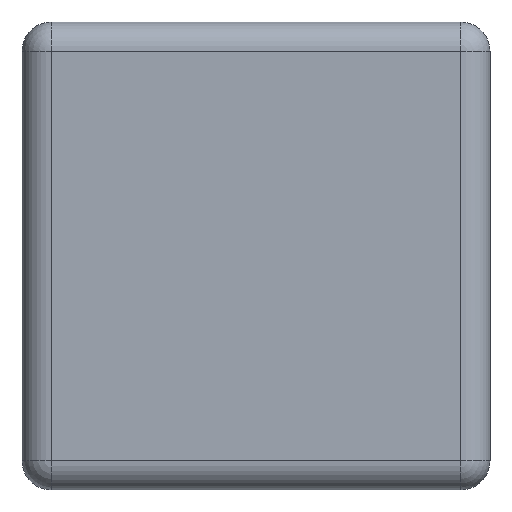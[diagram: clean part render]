
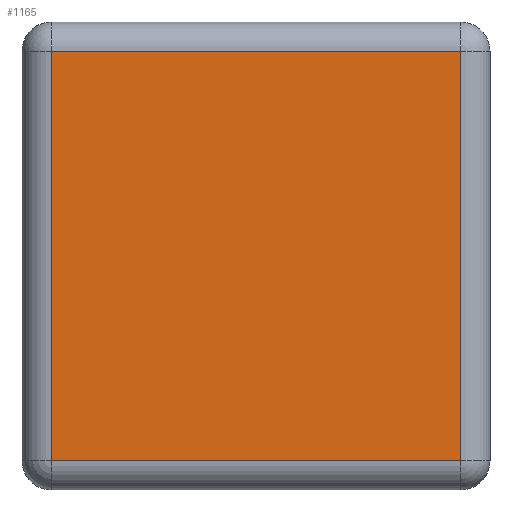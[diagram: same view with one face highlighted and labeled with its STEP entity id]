
A CAD part, left-side view. The second image highlights one B-rep face of the part: STEP entity #1165.
In plain terms, the highlighted planar face has unit normal (-1, 0, 0).
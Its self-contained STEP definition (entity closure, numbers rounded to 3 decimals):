
#186 = CYLINDRICAL_SURFACE('',#187,0.1);
#187 = AXIS2_PLACEMENT_3D('',#188,#189,#190);
#188 = CARTESIAN_POINT('',(-1.5,0.7,0.));
#189 = DIRECTION('',(0.,0.,1.));
#190 = DIRECTION('',(-0.,1.,0.));
#582 = VERTEX_POINT('',#583);
#583 = CARTESIAN_POINT('',(-1.6,0.7,0.1));
#603 = EDGE_CURVE('',#582,#604,#606,.T.);
#604 = VERTEX_POINT('',#605);
#605 = CARTESIAN_POINT('',(-1.6,0.7,1.5));
#606 = SURFACE_CURVE('',#607,(#611,#618),.PCURVE_S1.);
#607 = LINE('',#608,#609);
#608 = CARTESIAN_POINT('',(-1.6,0.7,0.));
#609 = VECTOR('',#610,1.);
#610 = DIRECTION('',(0.,0.,1.));
#611 = PCURVE('',#186,#612);
#612 = DEFINITIONAL_REPRESENTATION('',(#613),#617);
#613 = LINE('',#614,#615);
#614 = CARTESIAN_POINT('',(1.571,0.));
#615 = VECTOR('',#616,1.);
#616 = DIRECTION('',(0.,1.));
#617 = ( GEOMETRIC_REPRESENTATION_CONTEXT(2) 
PARAMETRIC_REPRESENTATION_CONTEXT() REPRESENTATION_CONTEXT('2D SPACE',''
  ) );
#618 = PCURVE('',#619,#624);
#619 = PLANE('',#620);
#620 = AXIS2_PLACEMENT_3D('',#621,#622,#623);
#621 = CARTESIAN_POINT('',(-1.6,-0.8,0.));
#622 = DIRECTION('',(-1.,0.,0.));
#623 = DIRECTION('',(0.,1.,0.));
#624 = DEFINITIONAL_REPRESENTATION('',(#625),#629);
#625 = LINE('',#626,#627);
#626 = CARTESIAN_POINT('',(1.5,0.));
#627 = VECTOR('',#628,1.);
#628 = DIRECTION('',(0.,-1.));
#629 = ( GEOMETRIC_REPRESENTATION_CONTEXT(2) 
PARAMETRIC_REPRESENTATION_CONTEXT() REPRESENTATION_CONTEXT('2D SPACE',''
  ) );
#1016 = CYLINDRICAL_SURFACE('',#1017,0.1);
#1017 = AXIS2_PLACEMENT_3D('',#1018,#1019,#1020);
#1018 = CARTESIAN_POINT('',(-1.5,-0.8,0.1));
#1019 = DIRECTION('',(0.,1.,0.));
#1020 = DIRECTION('',(-1.,0.,0.));
#1100 = CYLINDRICAL_SURFACE('',#1101,0.1);
#1101 = AXIS2_PLACEMENT_3D('',#1102,#1103,#1104);
#1102 = CARTESIAN_POINT('',(-1.5,-0.8,1.5));
#1103 = DIRECTION('',(0.,1.,0.));
#1104 = DIRECTION('',(-1.,0.,0.));
#1165 = ADVANCED_FACE('',(#1166),#619,.T.);
#1166 = FACE_BOUND('',#1167,.T.);
#1167 = EDGE_LOOP('',(#1168,#1198,#1219,#1220));
#1168 = ORIENTED_EDGE('',*,*,#1169,.T.);
#1169 = EDGE_CURVE('',#1170,#1172,#1174,.T.);
#1170 = VERTEX_POINT('',#1171);
#1171 = CARTESIAN_POINT('',(-1.6,-0.7,0.1));
#1172 = VERTEX_POINT('',#1173);
#1173 = CARTESIAN_POINT('',(-1.6,-0.7,1.5));
#1174 = SURFACE_CURVE('',#1175,(#1179,#1186),.PCURVE_S1.);
#1175 = LINE('',#1176,#1177);
#1176 = CARTESIAN_POINT('',(-1.6,-0.7,0.));
#1177 = VECTOR('',#1178,1.);
#1178 = DIRECTION('',(0.,0.,1.));
#1179 = PCURVE('',#619,#1180);
#1180 = DEFINITIONAL_REPRESENTATION('',(#1181),#1185);
#1181 = LINE('',#1182,#1183);
#1182 = CARTESIAN_POINT('',(0.1,0.));
#1183 = VECTOR('',#1184,1.);
#1184 = DIRECTION('',(0.,-1.));
#1185 = ( GEOMETRIC_REPRESENTATION_CONTEXT(2) 
PARAMETRIC_REPRESENTATION_CONTEXT() REPRESENTATION_CONTEXT('2D SPACE',''
  ) );
#1186 = PCURVE('',#1187,#1192);
#1187 = CYLINDRICAL_SURFACE('',#1188,0.1);
#1188 = AXIS2_PLACEMENT_3D('',#1189,#1190,#1191);
#1189 = CARTESIAN_POINT('',(-1.5,-0.7,0.));
#1190 = DIRECTION('',(0.,0.,1.));
#1191 = DIRECTION('',(-1.,0.,0.));
#1192 = DEFINITIONAL_REPRESENTATION('',(#1193),#1197);
#1193 = LINE('',#1194,#1195);
#1194 = CARTESIAN_POINT('',(0.,0.));
#1195 = VECTOR('',#1196,1.);
#1196 = DIRECTION('',(0.,1.));
#1197 = ( GEOMETRIC_REPRESENTATION_CONTEXT(2) 
PARAMETRIC_REPRESENTATION_CONTEXT() REPRESENTATION_CONTEXT('2D SPACE',''
  ) );
#1198 = ORIENTED_EDGE('',*,*,#1199,.T.);
#1199 = EDGE_CURVE('',#1172,#604,#1200,.T.);
#1200 = SURFACE_CURVE('',#1201,(#1205,#1212),.PCURVE_S1.);
#1201 = LINE('',#1202,#1203);
#1202 = CARTESIAN_POINT('',(-1.6,-0.8,1.5));
#1203 = VECTOR('',#1204,1.);
#1204 = DIRECTION('',(0.,1.,0.));
#1205 = PCURVE('',#619,#1206);
#1206 = DEFINITIONAL_REPRESENTATION('',(#1207),#1211);
#1207 = LINE('',#1208,#1209);
#1208 = CARTESIAN_POINT('',(0.,-1.5));
#1209 = VECTOR('',#1210,1.);
#1210 = DIRECTION('',(1.,0.));
#1211 = ( GEOMETRIC_REPRESENTATION_CONTEXT(2) 
PARAMETRIC_REPRESENTATION_CONTEXT() REPRESENTATION_CONTEXT('2D SPACE',''
  ) );
#1212 = PCURVE('',#1100,#1213);
#1213 = DEFINITIONAL_REPRESENTATION('',(#1214),#1218);
#1214 = LINE('',#1215,#1216);
#1215 = CARTESIAN_POINT('',(0.,0.));
#1216 = VECTOR('',#1217,1.);
#1217 = DIRECTION('',(0.,1.));
#1218 = ( GEOMETRIC_REPRESENTATION_CONTEXT(2) 
PARAMETRIC_REPRESENTATION_CONTEXT() REPRESENTATION_CONTEXT('2D SPACE',''
  ) );
#1219 = ORIENTED_EDGE('',*,*,#603,.F.);
#1220 = ORIENTED_EDGE('',*,*,#1221,.F.);
#1221 = EDGE_CURVE('',#1170,#582,#1222,.T.);
#1222 = SURFACE_CURVE('',#1223,(#1227,#1234),.PCURVE_S1.);
#1223 = LINE('',#1224,#1225);
#1224 = CARTESIAN_POINT('',(-1.6,-0.8,0.1));
#1225 = VECTOR('',#1226,1.);
#1226 = DIRECTION('',(0.,1.,0.));
#1227 = PCURVE('',#619,#1228);
#1228 = DEFINITIONAL_REPRESENTATION('',(#1229),#1233);
#1229 = LINE('',#1230,#1231);
#1230 = CARTESIAN_POINT('',(0.,-0.1));
#1231 = VECTOR('',#1232,1.);
#1232 = DIRECTION('',(1.,0.));
#1233 = ( GEOMETRIC_REPRESENTATION_CONTEXT(2) 
PARAMETRIC_REPRESENTATION_CONTEXT() REPRESENTATION_CONTEXT('2D SPACE',''
  ) );
#1234 = PCURVE('',#1016,#1235);
#1235 = DEFINITIONAL_REPRESENTATION('',(#1236),#1240);
#1236 = LINE('',#1237,#1238);
#1237 = CARTESIAN_POINT('',(-0.,0.));
#1238 = VECTOR('',#1239,1.);
#1239 = DIRECTION('',(-0.,1.));
#1240 = ( GEOMETRIC_REPRESENTATION_CONTEXT(2) 
PARAMETRIC_REPRESENTATION_CONTEXT() REPRESENTATION_CONTEXT('2D SPACE',''
  ) );
